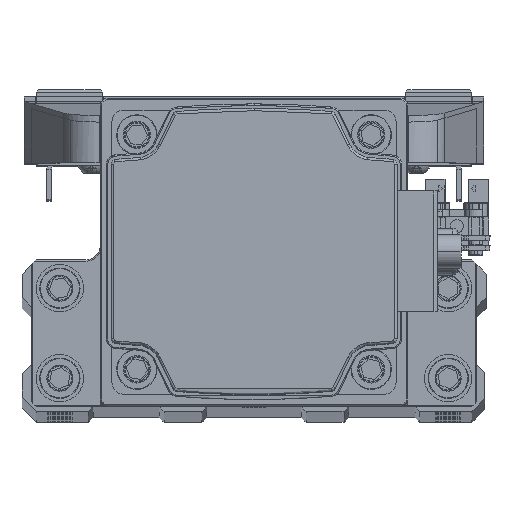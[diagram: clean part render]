
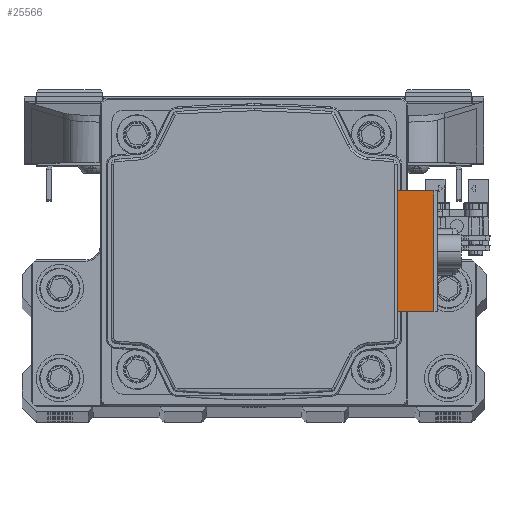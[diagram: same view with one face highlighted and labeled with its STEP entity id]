
A CAD part, top view. The second image highlights one B-rep face of the part: STEP entity #25566.
In plain terms, the highlighted planar face has unit normal (0, 0, 1) as drawn and (0, 0, -1) by its records, which use the part's own axes.
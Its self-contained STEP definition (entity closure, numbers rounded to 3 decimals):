
#168 = DIRECTION ( 'NONE',  ( 1., 0., 0. ) ) ;
#2336 = LINE ( 'NONE', #17694, #8298 ) ;
#2543 = ORIENTED_EDGE ( 'NONE', *, *, #32557, .T. ) ;
#2546 = EDGE_CURVE ( 'NONE', #45794, #6582, #48284, .T. ) ;
#3188 = EDGE_LOOP ( 'NONE', ( #2543, #37233, #38654, #9097 ) ) ;
#6582 = VERTEX_POINT ( 'NONE', #34813 ) ;
#7606 = DIRECTION ( 'NONE',  ( -1., 0., 0. ) ) ;
#7947 = VERTEX_POINT ( 'NONE', #32040 ) ;
#8298 = VECTOR ( 'NONE', #33048, 1000. ) ;
#8956 = LINE ( 'NONE', #24325, #24746 ) ;
#9097 = ORIENTED_EDGE ( 'NONE', *, *, #2546, .F. ) ;
#10268 = VECTOR ( 'NONE', #168, 1000. ) ;
#11129 = EDGE_CURVE ( 'NONE', #7947, #14076, #19327, .T. ) ;
#11292 = EDGE_CURVE ( 'NONE', #6582, #14076, #8956, .T. ) ;
#11381 = PLANE ( 'NONE',  #21661 ) ;
#13826 = CARTESIAN_POINT ( 'NONE',  ( 18.438, 30.2, -88.696 ) ) ;
#14076 = VERTEX_POINT ( 'NONE', #21882 ) ;
#17694 = CARTESIAN_POINT ( 'NONE',  ( -12.75, 37.9, -88.696 ) ) ;
#19327 = LINE ( 'NONE', #34674, #10268 ) ;
#21661 = AXIS2_PLACEMENT_3D ( 'NONE', #26729, #42073, #7606 ) ;
#21882 = CARTESIAN_POINT ( 'NONE',  ( 12.75, 37.9, -88.696 ) ) ;
#24325 = CARTESIAN_POINT ( 'NONE',  ( 12.75, 33.991, -88.696 ) ) ;
#24746 = VECTOR ( 'NONE', #39652, 1000. ) ;
#25566 = ADVANCED_FACE ( 'NONE', ( #45846 ), #11381, .T. ) ;
#25805 = CARTESIAN_POINT ( 'NONE',  ( -12.75, 30.2, -88.696 ) ) ;
#26729 = CARTESIAN_POINT ( 'NONE',  ( 0., 37.9, -88.696 ) ) ;
#29166 = DIRECTION ( 'NONE',  ( 1., 0., 0. ) ) ;
#32040 = CARTESIAN_POINT ( 'NONE',  ( -12.75, 37.9, -88.696 ) ) ;
#32557 = EDGE_CURVE ( 'NONE', #45794, #7947, #2336, .T. ) ;
#33048 = DIRECTION ( 'NONE',  ( 0., 1., 0. ) ) ;
#34674 = CARTESIAN_POINT ( 'NONE',  ( 0., 37.9, -88.696 ) ) ;
#34813 = CARTESIAN_POINT ( 'NONE',  ( 12.75, 30.2, -88.696 ) ) ;
#37233 = ORIENTED_EDGE ( 'NONE', *, *, #11129, .T. ) ;
#38654 = ORIENTED_EDGE ( 'NONE', *, *, #11292, .F. ) ;
#39652 = DIRECTION ( 'NONE',  ( 0., 1., 0. ) ) ;
#42073 = DIRECTION ( 'NONE',  ( 0., 0., -1. ) ) ;
#45794 = VERTEX_POINT ( 'NONE', #25805 ) ;
#45846 = FACE_OUTER_BOUND ( 'NONE', #3188, .T. ) ;
#48284 = LINE ( 'NONE', #13826, #49131 ) ;
#49131 = VECTOR ( 'NONE', #29166, 1000. ) ;
